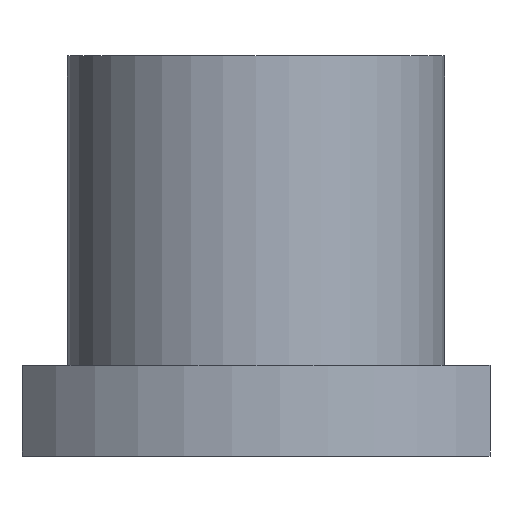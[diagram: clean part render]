
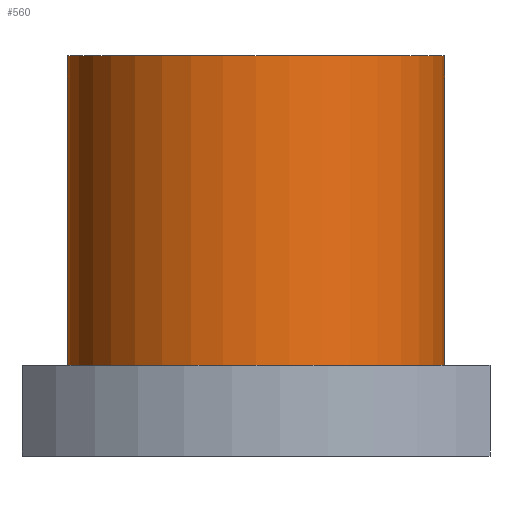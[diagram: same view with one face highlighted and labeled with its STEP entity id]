
A CAD part, front view. The second image highlights one B-rep face of the part: STEP entity #560.
In plain terms, the highlighted cylindrical face has radius 25 mm (diameter 50 mm), a partial arc.
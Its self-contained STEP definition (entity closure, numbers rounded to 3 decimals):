
#134=CARTESIAN_POINT('',(0.,0.,53.));
#135=DIRECTION('',(0.,0.,1.));
#136=DIRECTION('',(-1.,0.,0.));
#137=AXIS2_PLACEMENT_3D('',#134,#135,#136);
#154=DIRECTION('',(0.,0.,-1.));
#155=VECTOR('',#154,41.);
#156=CARTESIAN_POINT('',(25.,0.,53.));
#157=LINE('',#156,#155);
#158=DIRECTION('',(0.,0.,-1.));
#159=VECTOR('',#158,41.);
#160=CARTESIAN_POINT('',(-25.,0.,53.));
#161=LINE('',#160,#159);
#162=CARTESIAN_POINT('',(0.,0.,12.));
#163=DIRECTION('',(0.,0.,-1.));
#164=DIRECTION('',(1.,0.,0.));
#165=AXIS2_PLACEMENT_3D('',#162,#163,#164);
#354=CARTESIAN_POINT('',(25.,0.,12.));
#355=CARTESIAN_POINT('',(-25.,0.,12.));
#356=VERTEX_POINT('',#354);
#357=VERTEX_POINT('',#355);
#358=CARTESIAN_POINT('',(-25.,0.,53.));
#359=CARTESIAN_POINT('',(25.,0.,53.));
#360=VERTEX_POINT('',#358);
#361=VERTEX_POINT('',#359);
#546=CARTESIAN_POINT('',(0.,0.,53.));
#547=DIRECTION('',(0.,0.,1.));
#548=DIRECTION('',(1.,0.,0.));
#549=AXIS2_PLACEMENT_3D('',#546,#547,#548);
#550=CYLINDRICAL_SURFACE('',#549,25.);
#551=ORIENTED_EDGE('',*,*,#535,.T.);
#553=ORIENTED_EDGE('',*,*,#552,.T.);
#555=ORIENTED_EDGE('',*,*,#554,.T.);
#557=ORIENTED_EDGE('',*,*,#556,.F.);
#558=EDGE_LOOP('',(#551,#553,#555,#557));
#559=FACE_OUTER_BOUND('',#558,.F.);
#138=CIRCLE('',#137,25.);
#166=CIRCLE('',#165,25.);
#535=EDGE_CURVE('',#360,#361,#138,.T.);
#552=EDGE_CURVE('',#361,#356,#157,.T.);
#554=EDGE_CURVE('',#356,#357,#166,.T.);
#556=EDGE_CURVE('',#360,#357,#161,.T.);
#560=ADVANCED_FACE('',(#559),#550,.T.);
